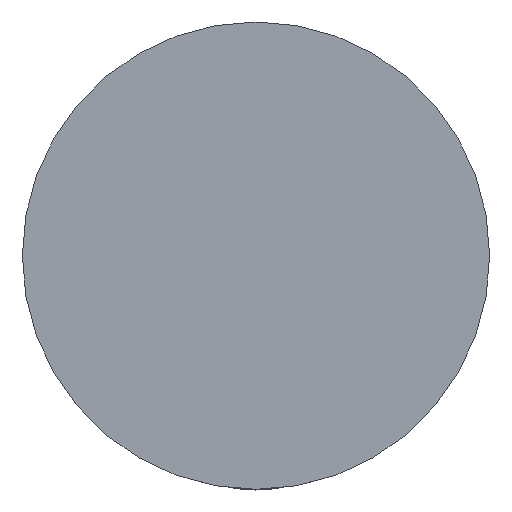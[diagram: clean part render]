
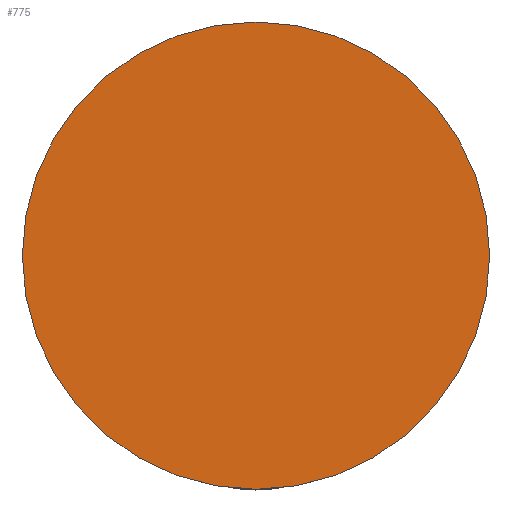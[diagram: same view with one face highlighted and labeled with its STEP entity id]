
A CAD part, top view. The second image highlights one B-rep face of the part: STEP entity #775.
In plain terms, the highlighted planar face has unit normal (0, 0, 1).
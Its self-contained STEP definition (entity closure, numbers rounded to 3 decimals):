
#618=CARTESIAN_POINT('',(0.,26.4,62.35));
#619=DIRECTION('',(0.,0.,1.));
#620=DIRECTION('',(0.,1.,0.));
#621=AXIS2_PLACEMENT_3D('',#618,#619,#620);
#623=CARTESIAN_POINT('',(0.,26.4,62.35));
#624=DIRECTION('',(0.,0.,1.));
#625=DIRECTION('',(0.,-1.,0.));
#626=AXIS2_PLACEMENT_3D('',#623,#624,#625);
#733=CARTESIAN_POINT('',(0.,-43.6,62.35));
#735=VERTEX_POINT('',#733);
#750=CARTESIAN_POINT('',(0.,96.4,62.35));
#751=VERTEX_POINT('',#750);
#764=CARTESIAN_POINT('',(0.,26.4,62.35));
#765=DIRECTION('',(0.,0.,1.));
#766=DIRECTION('',(0.,-1.,0.));
#767=AXIS2_PLACEMENT_3D('',#764,#765,#766);
#768=PLANE('',#767);
#770=ORIENTED_EDGE('',*,*,#769,.F.);
#772=ORIENTED_EDGE('',*,*,#771,.F.);
#773=EDGE_LOOP('',(#770,#772));
#774=FACE_OUTER_BOUND('',#773,.F.);
#775=ADVANCED_FACE('',(#774),#768,.T.);
#622=CIRCLE('',#621,70.);
#627=CIRCLE('',#626,70.);
#769=EDGE_CURVE('',#751,#735,#622,.T.);
#771=EDGE_CURVE('',#735,#751,#627,.T.);
